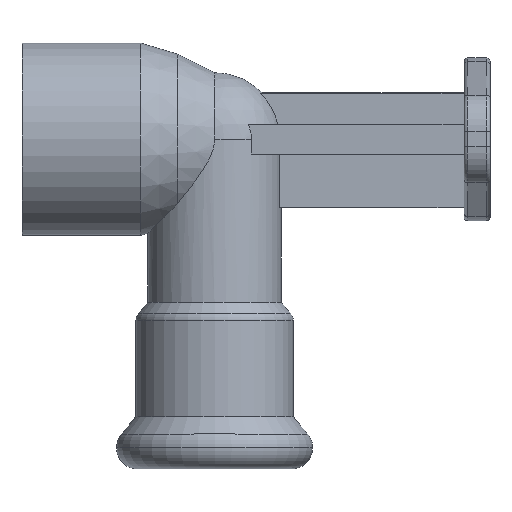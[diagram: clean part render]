
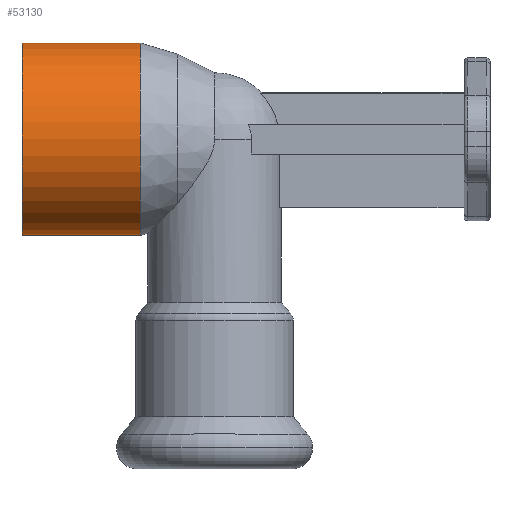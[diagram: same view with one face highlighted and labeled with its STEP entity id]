
A CAD part, top view. The second image highlights one B-rep face of the part: STEP entity #53130.
In plain terms, the highlighted cylindrical face has radius 13 mm (diameter 26 mm), a partial arc.
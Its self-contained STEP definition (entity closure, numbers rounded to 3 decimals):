
#18590=CARTESIAN_POINT('',(-192.976,7.621,0.));
#18600=VERTEX_POINT('',#18590);
#19650=CARTESIAN_POINT('',(-192.976,33.621,
0.));
#19660=VERTEX_POINT('',#19650);
#19690=CARTESIAN_POINT('',(-192.976,20.621,0.));
#19700=DIRECTION('',(1.,0.,0.));
#19710=DIRECTION('',(0.,-1.,0.));
#19720=AXIS2_PLACEMENT_3D('',#19690,#19700,#19710);
#19730=CIRCLE('',#19720,13.);
#19740=EDGE_CURVE('',#19660,#18600,#19730,.T.);
#19790=CARTESIAN_POINT('',(-192.976,20.621,0.));
#19800=DIRECTION('',(-1.,0.,0.));
#19810=DIRECTION('',(0.,-1.,0.));
#19820=AXIS2_PLACEMENT_3D('',#19790,#19800,#19810);
#19830=CYLINDRICAL_SURFACE('',#19820,13.);
#19840=CARTESIAN_POINT('',(-192.976,33.621,
0.));
#19850=DIRECTION('',(-1.,0.,0.));
#19860=VECTOR('',#19850,1.);
#19870=LINE('',#19840,#19860);
#19880=CARTESIAN_POINT('',(-176.976,33.621,
0.));
#19890=VERTEX_POINT('',#19880);
#19900=EDGE_CURVE('',#19890,#19660,#19870,.T.);
#19940=CARTESIAN_POINT('',(-192.976,7.621,0.));
#19950=DIRECTION('',(-1.,0.,0.));
#19960=VECTOR('',#19950,1.);
#19970=LINE('',#19940,#19960);
#19980=CARTESIAN_POINT('',(-176.976,7.621,0.));
#19990=VERTEX_POINT('',#19980);
#20000=EDGE_CURVE('',#19990,#18600,#19970,.T.);
#20020=CARTESIAN_POINT('',(-176.976,20.621,0.));
#20030=DIRECTION('',(-1.,0.,0.));
#20040=DIRECTION('',(0.,-1.,0.));
#20050=AXIS2_PLACEMENT_3D('',#20020,#20030,#20040);
#20060=CIRCLE('',#20050,13.);
#20320=EDGE_CURVE('',#19990,#19890,#20060,.T.);
#53070=ORIENTED_EDGE('',*,*,#19900,.T.);
#53080=ORIENTED_EDGE('',*,*,#20320,.T.);
#53090=ORIENTED_EDGE('',*,*,#20000,.F.);
#53100=ORIENTED_EDGE('',*,*,#19740,.T.);
#53110=EDGE_LOOP('',(#53100,#53090,#53080,#53070));
#53120=FACE_OUTER_BOUND('',#53110,.T.);
#53130=ADVANCED_FACE('',(#53120),#19830,.T.);
